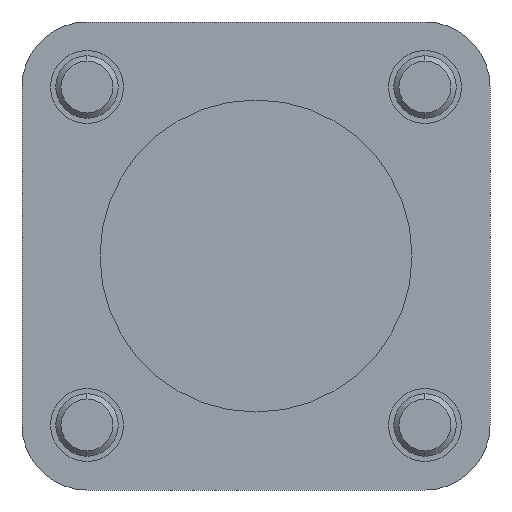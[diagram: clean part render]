
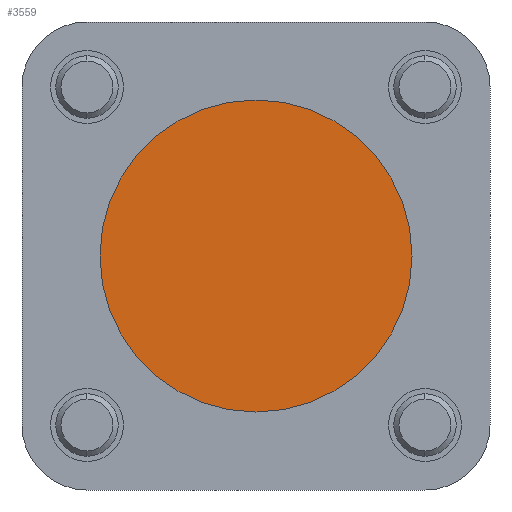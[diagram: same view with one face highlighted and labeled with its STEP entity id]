
A CAD part, left-side view. The second image highlights one B-rep face of the part: STEP entity #3559.
In plain terms, the highlighted planar face has unit normal (-1, 0, 0).
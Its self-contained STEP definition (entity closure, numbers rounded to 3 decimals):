
#286 = AXIS2_PLACEMENT_3D ( 'NONE', #2899, #3165, #603 ) ;
#322 = PLANE ( 'NONE',  #286 ) ;
#433 = DIRECTION ( 'NONE',  ( 0., 0., 1. ) ) ;
#603 = DIRECTION ( 'NONE',  ( 0., 0., 1. ) ) ;
#782 = CIRCLE ( 'NONE', #1080, 15. ) ;
#824 = VERTEX_POINT ( 'NONE', #1676 ) ;
#948 = DIRECTION ( 'NONE',  ( 0., 0., 1. ) ) ;
#1080 = AXIS2_PLACEMENT_3D ( 'NONE', #1571, #1494, #948 ) ;
#1179 = EDGE_CURVE ( 'NONE', #824, #2187, #3434, .T. ) ;
#1494 = DIRECTION ( 'NONE',  ( -1., 0., 0. ) ) ;
#1571 = CARTESIAN_POINT ( 'NONE',  ( 5., 0., 0. ) ) ;
#1584 = DIRECTION ( 'NONE',  ( -1., 0., 0. ) ) ;
#1676 = CARTESIAN_POINT ( 'NONE',  ( 5., 0., -15. ) ) ;
#1686 = ORIENTED_EDGE ( 'NONE', *, *, #1179, .T. ) ;
#2178 = CARTESIAN_POINT ( 'NONE',  ( 5., 0., 15. ) ) ;
#2187 = VERTEX_POINT ( 'NONE', #2178 ) ;
#2306 = FACE_OUTER_BOUND ( 'NONE', #2523, .T. ) ;
#2471 = EDGE_CURVE ( 'NONE', #2187, #824, #782, .T. ) ;
#2523 = EDGE_LOOP ( 'NONE', ( #2728, #1686 ) ) ;
#2728 = ORIENTED_EDGE ( 'NONE', *, *, #2471, .T. ) ;
#2899 = CARTESIAN_POINT ( 'NONE',  ( 5., 15., 0. ) ) ;
#3083 = AXIS2_PLACEMENT_3D ( 'NONE', #3566, #1584, #433 ) ;
#3165 = DIRECTION ( 'NONE',  ( -1., 0., 0. ) ) ;
#3434 = CIRCLE ( 'NONE', #3083, 15. ) ;
#3559 = ADVANCED_FACE ( 'NONE', ( #2306 ), #322, .T. ) ;
#3566 = CARTESIAN_POINT ( 'NONE',  ( 5., 0., 0. ) ) ;
